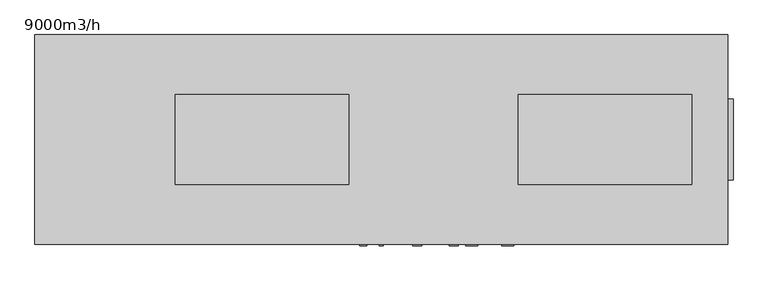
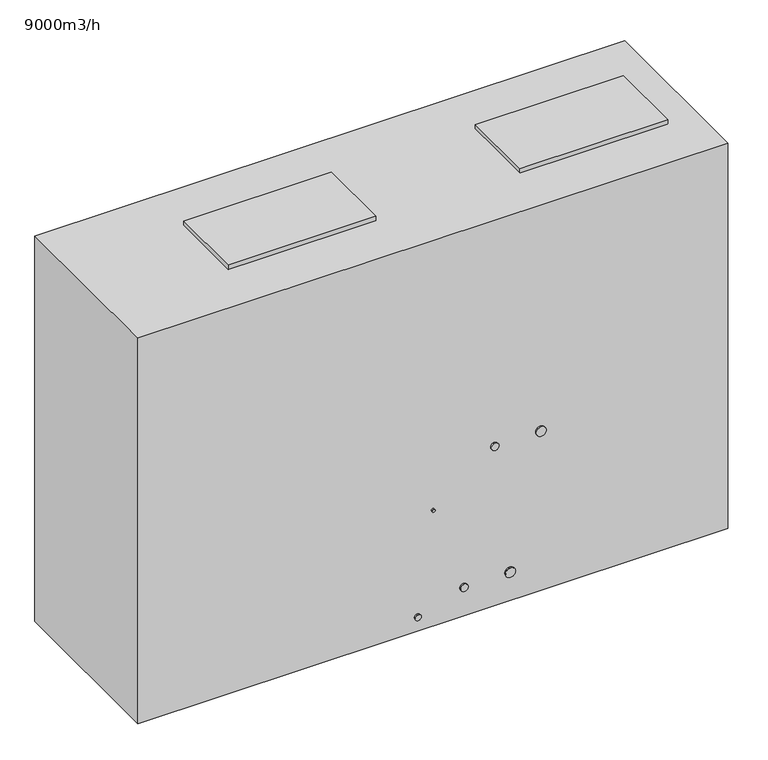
"""IFC4 building model written with IfcOpenShell, lengths in millimetres: unitary equipment geometry, 07020_ACC_コンパクト形空調機_全熱交付 : 9000m3/h."""

from ifc_helpers import new_model, si_unit, point, frame, frame_2d, origin, place, context, project, spatial, polyline, circle_curve, trimmed, segment, composite_curve, outline, extrude, source, transform, mapped, element, save


def unitary_equipment_9000m3_h_907ab617(model_context):
    return source(origin(), model_context, "Body", "SweptSolid", [
        extrude(outline(polyline([(1947.0, 225.0), (1947.0, -225.0), (1917.0, -225.0), (1917.0, 225.0), (1947.0, 225.0)])), frame((0.0, 0.0, 1576.0), z_axis=(0.0, 0.0, 1.0), x_axis=(1.0, 0.0, 0.0)), (0.0, 0.0, 1.0), 600.0),
        extrude(outline(polyline([(1947.0, 150.0), (1947.0, -150.0), (1917.0, -150.0), (1917.0, 150.0), (1947.0, 150.0)])), frame((0.0, 0.0, 976.0), z_axis=(0.0, 0.0, 1.0), x_axis=(1.0, 0.0, 0.0)), (0.0, 0.0, 1.0), 400.0),
        extrude(outline(composite_curve([segment(trimmed(circle_curve(frame_2d((1250.0, 700.0)), 32.5), [point((1250.0, 667.5))], [point((1250.0, 732.5))], False, "CARTESIAN"), True, "CONTINUOUS"), segment(trimmed(circle_curve(frame_2d((1250.0, 700.0)), 32.5), [point((1250.0, 732.5))], [point((1250.0, 667.5))], False, "CARTESIAN"), True, "CONTINUOUS")], self_intersect=False)), frame((0.0, -590.0, 0.0), z_axis=(0.0, 1.0, 0.0), x_axis=(0.0, 0.0, 1.0)), (0.0, 0.0, 1.0), 10.0),
        extrude(outline(composite_curve([segment(trimmed(circle_curve(frame_2d((350.0, 500.0)), 32.5), [point((350.0, 467.5))], [point((350.0, 532.5))], False, "CARTESIAN"), True, "CONTINUOUS"), segment(trimmed(circle_curve(frame_2d((350.0, 500.0)), 32.5), [point((350.0, 532.5))], [point((350.0, 467.5))], False, "CARTESIAN"), True, "CONTINUOUS")], self_intersect=False)), frame((0.0, -590.0, 0.0), z_axis=(0.0, 1.0, 0.0), x_axis=(0.0, 0.0, 1.0)), (0.0, 0.0, 1.0), 10.0),
        extrude(outline(composite_curve([segment(trimmed(circle_curve(frame_2d((250.0, -100.0)), 20.0), [point((250.0, -120.0))], [point((250.0, -80.0))], False, "CARTESIAN"), True, "CONTINUOUS"), segment(trimmed(circle_curve(frame_2d((250.0, -100.0)), 20.0), [point((250.0, -80.0))], [point((250.0, -120.0))], False, "CARTESIAN"), True, "CONTINUOUS")], self_intersect=False)), frame((0.0, -590.0, 0.0), z_axis=(0.0, 1.0, 0.0), x_axis=(0.0, 0.0, 1.0)), (0.0, 0.0, 1.0), 10.0),
        extrude(outline(composite_curve([segment(trimmed(circle_curve(frame_2d((950.0, 0.0)), 10.0), [point((950.0, -10.0))], [point((950.0, 10.0))], False, "CARTESIAN"), True, "CONTINUOUS"), segment(trimmed(circle_curve(frame_2d((950.0, 0.0)), 10.0), [point((950.0, 10.0))], [point((950.0, -10.0))], False, "CARTESIAN"), True, "CONTINUOUS")], self_intersect=False)), frame((0.0, -590.0, 0.0), z_axis=(0.0, 1.0, 0.0), x_axis=(0.0, 0.0, 1.0)), (0.0, 0.0, 1.0), 10.0),
        extrude(outline(composite_curve([segment(trimmed(circle_curve(frame_2d((1250.0, 400.0)), 25.0), [point((1250.0, 375.0))], [point((1250.0, 425.0))], False, "CARTESIAN"), True, "CONTINUOUS"), segment(trimmed(circle_curve(frame_2d((1250.0, 400.0)), 25.0), [point((1250.0, 425.0))], [point((1250.0, 375.0))], False, "CARTESIAN"), True, "CONTINUOUS")], self_intersect=False)), frame((0.0, -590.0, 0.0), z_axis=(0.0, 1.0, 0.0), x_axis=(0.0, 0.0, 1.0)), (0.0, 0.0, 1.0), 10.0),
        extrude(outline(composite_curve([segment(trimmed(circle_curve(frame_2d((350.0, 200.0)), 25.0), [point((350.0, 175.0))], [point((350.0, 225.0))], False, "CARTESIAN"), True, "CONTINUOUS"), segment(trimmed(circle_curve(frame_2d((350.0, 200.0)), 25.0), [point((350.0, 225.0))], [point((350.0, 175.0))], False, "CARTESIAN"), True, "CONTINUOUS")], self_intersect=False)), frame((0.0, -590.0, 0.0), z_axis=(0.0, 1.0, 0.0), x_axis=(0.0, 0.0, 1.0)), (0.0, 0.0, 1.0), 10.0),
        extrude(outline(polyline([(-180.0, -250.0), (-1140.0, -250.0), (-1140.0, 250.0), (-180.0, 250.0), (-180.0, -250.0)])), frame((0.0, 0.0, 2802.0), z_axis=(0.0, 0.0, 1.0), x_axis=(1.0, 0.0, 0.0)), (0.0, 0.0, 1.0), 30.0),
        extrude(outline(polyline([(1717.0, 250.0), (1717.0, -250.0), (757.0, -250.0), (757.0, 250.0), (1717.0, 250.0)])), frame((0.0, 0.0, 2802.0), z_axis=(0.0, 0.0, 1.0), x_axis=(1.0, 0.0, 0.0)), (0.0, 0.0, 1.0), 30.0),
        extrude(outline(polyline([(1917.0, 580.0), (1917.0, -580.0), (-1917.0, -580.0), (-1917.0, 580.0), (1917.0, 580.0)])), frame((0.0, 0.0, 150.0), z_axis=(0.0, 0.0, 1.0), x_axis=(1.0, 0.0, 0.0)), (0.0, 0.0, 1.0), 2652.0),
    ])


if __name__ == "__main__":
    model = new_model("IFC4")
    model_context = context("Model", 3, world=origin())
    ifc_project = project(units=[si_unit("LENGTHUNIT", "METRE", prefix="MILLI")], contexts=[model_context])
    site = spatial("IfcSite", under=ifc_project)
    building = spatial("IfcBuilding", under=site)
    placement = place(None, origin())
    unitary_equipment_9000m3_h_shape = unitary_equipment_9000m3_h_907ab617(model_context)
    element("IfcUnitaryEquipment", 1, ObjectType="07020_ACC_コンパクト形空調機_全熱交付 : 9000m3/h", at=placement, inside=building, context=model_context, shape_type="MappedRepresentation", body=[
        mapped(unitary_equipment_9000m3_h_shape, transform((0.0, 0.0, 0.0), x_axis=(1.0, 0.0, 0.0), y_axis=(0.0, 1.0, 0.0), z_axis=(0.0, 0.0, 1.0))),
    ])
    save(model, "model.ifc")
